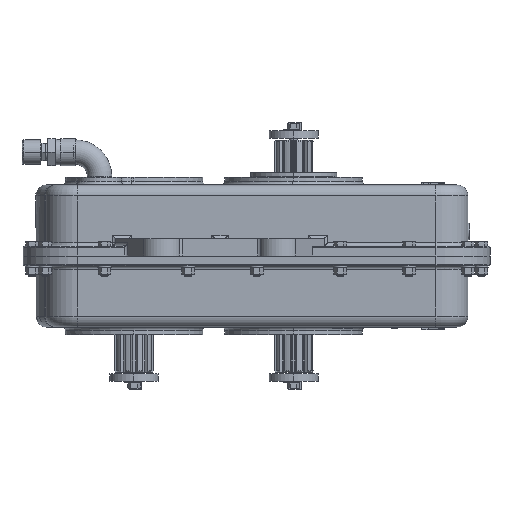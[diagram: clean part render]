
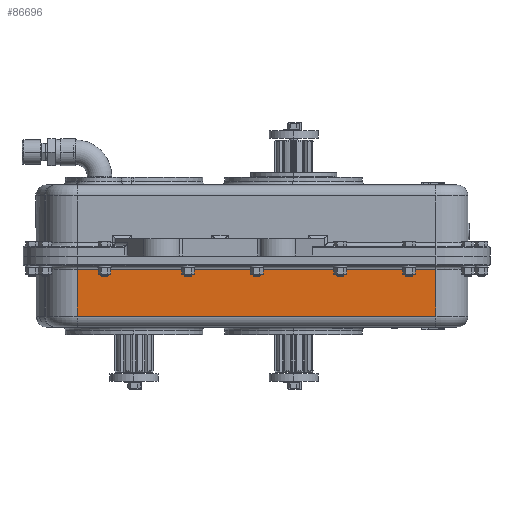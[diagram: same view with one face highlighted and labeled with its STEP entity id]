
A CAD part, left-side view. The second image highlights one B-rep face of the part: STEP entity #86696.
In plain terms, the highlighted planar face has unit normal (-1, 0, 0).
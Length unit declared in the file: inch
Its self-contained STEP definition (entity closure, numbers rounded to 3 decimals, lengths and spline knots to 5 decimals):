
#1974 = VECTOR ( 'NONE', #60948, 39.37008 ) ;
#15529 = CARTESIAN_POINT ( 'NONE',  ( -5.88, -15.37, -3.06 ) ) ;
#18572 = VERTEX_POINT ( 'NONE', #15529 ) ;
#20377 = CARTESIAN_POINT ( 'NONE',  ( -5.88, 2.88, -3.62 ) ) ;
#30993 = CARTESIAN_POINT ( 'NONE',  ( -5.88, 2.88, -3.62 ) ) ;
#34444 = LINE ( 'NONE', #110976, #106800 ) ;
#34531 = FACE_OUTER_BOUND ( 'NONE', #92066, .T. ) ;
#41852 = EDGE_CURVE ( 'NONE', #86153, #18572, #122485, .T. ) ;
#47234 = VERTEX_POINT ( 'NONE', #62722 ) ;
#51154 = VERTEX_POINT ( 'NONE', #74963 ) ;
#58676 = EDGE_CURVE ( 'NONE', #86153, #47234, #155973, .T. ) ;
#60948 = DIRECTION ( 'NONE',  ( 0., 1., 0. ) ) ;
#62722 = CARTESIAN_POINT ( 'NONE',  ( -5.88, 2.88, -0.68 ) ) ;
#74963 = CARTESIAN_POINT ( 'NONE',  ( -5.88, 2.88, -3.06 ) ) ;
#81306 = AXIS2_PLACEMENT_3D ( 'NONE', #20377, #128551, #115414 ) ;
#86153 = VERTEX_POINT ( 'NONE', #102076 ) ;
#86696 = ADVANCED_FACE ( 'NONE', ( #34531 ), #169136, .T. ) ;
#92066 = EDGE_LOOP ( 'NONE', ( #132477, #137335, #123761, #129234 ) ) ;
#102076 = CARTESIAN_POINT ( 'NONE',  ( -5.88, -15.37, -0.68 ) ) ;
#106800 = VECTOR ( 'NONE', #164711, 39.37008 ) ;
#109321 = CARTESIAN_POINT ( 'NONE',  ( -5.88, -15.37, -3.62 ) ) ;
#110966 = LINE ( 'NONE', #30993, #121076 ) ;
#110976 = CARTESIAN_POINT ( 'NONE',  ( -5.88, -15.43085, -3.06 ) ) ;
#115414 = DIRECTION ( 'NONE',  ( 0., 0., 1. ) ) ;
#121076 = VECTOR ( 'NONE', #125011, 39.37008 ) ;
#122484 = EDGE_CURVE ( 'NONE', #47234, #51154, #110966, .T. ) ;
#122485 = LINE ( 'NONE', #109321, #160375 ) ;
#123366 = DIRECTION ( 'NONE',  ( 0., 0., -1. ) ) ;
#123761 = ORIENTED_EDGE ( 'NONE', *, *, #122484, .T. ) ;
#125011 = DIRECTION ( 'NONE',  ( 0., 0., -1. ) ) ;
#128551 = DIRECTION ( 'NONE',  ( -1., 0., 0. ) ) ;
#128626 = CARTESIAN_POINT ( 'NONE',  ( -5.88, 2.88, -0.68 ) ) ;
#129234 = ORIENTED_EDGE ( 'NONE', *, *, #168523, .F. ) ;
#132477 = ORIENTED_EDGE ( 'NONE', *, *, #41852, .F. ) ;
#137335 = ORIENTED_EDGE ( 'NONE', *, *, #58676, .T. ) ;
#155973 = LINE ( 'NONE', #128626, #1974 ) ;
#160375 = VECTOR ( 'NONE', #123366, 39.37008 ) ;
#164711 = DIRECTION ( 'NONE',  ( 0., 1., 0. ) ) ;
#168523 = EDGE_CURVE ( 'NONE', #18572, #51154, #34444, .T. ) ;
#169136 = PLANE ( 'NONE',  #81306 ) ;
